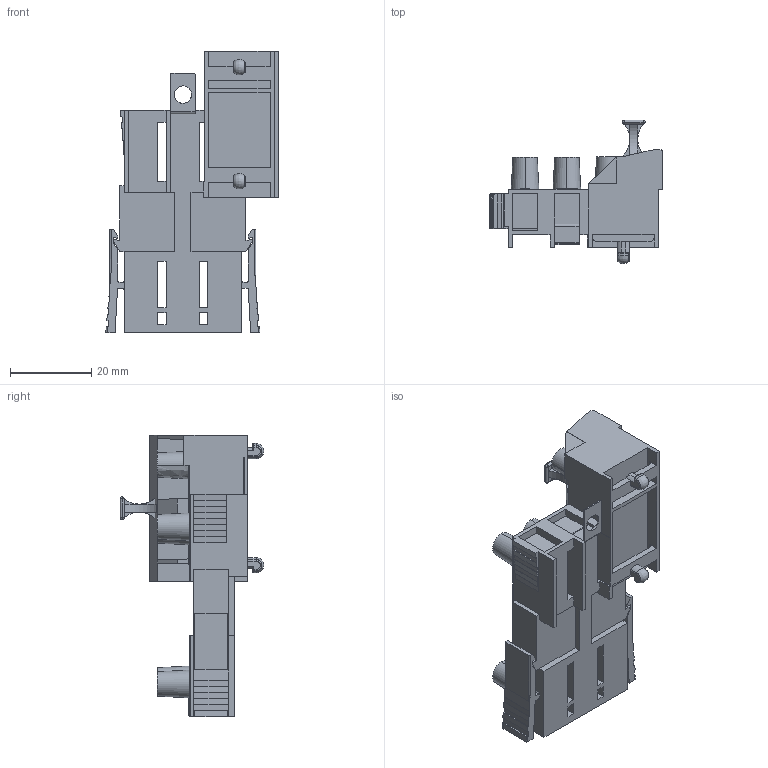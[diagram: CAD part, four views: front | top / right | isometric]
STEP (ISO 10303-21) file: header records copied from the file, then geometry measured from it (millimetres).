
FILE_DESCRIPTION((' '),'1');
FILE_NAME('00VYB01Y08.stp','2010-03-02 T11:27:09',(' '),(' '),'STEP Interface v1.0 by CT CoreTechnologie','3D_Evolution v1.0 by CT CoreTechnologie',' ');
FILE_SCHEMA(('CONFIG_CONTROL_DESIGN'));
Length unit declared in the file: millimetre
Products named in the file (1): 00VYB01Y08
Bounding box: 42.5 x 35.4 x 69.4 mm (x, y, z)
Volume: 26817.1 mm3; surface area: 13679.7 mm2
Topology: 1 solids, 1 shells, 1256 faces, 3409 edges, 2249 vertices
Faces by surface type: plane 756, bspline 357, cylinder 143
Entity records: 67022 total; most frequent: CARTESIAN_POINT 24159, ORIENTED_EDGE 6946, DIRECTION 5664, EDGE_CURVE 3473, VECTOR 2440, LINE 2440, VERTEX_POINT 2297, AXIS2_PLACEMENT_3D 1612
